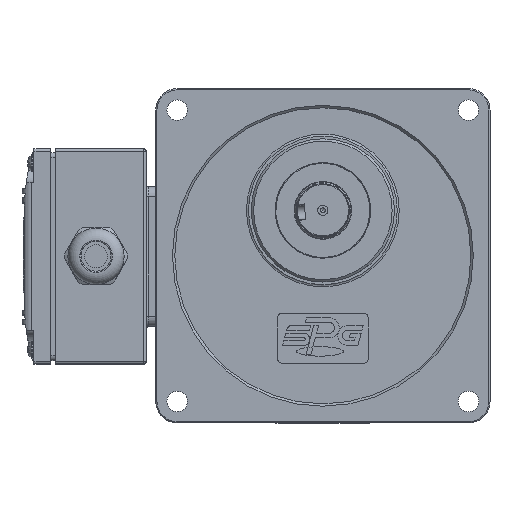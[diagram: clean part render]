
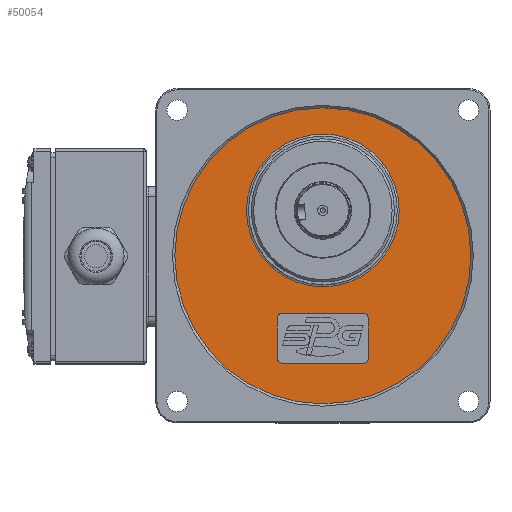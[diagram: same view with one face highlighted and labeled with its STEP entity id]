
A CAD part, top view. The second image highlights one B-rep face of the part: STEP entity #50054.
In plain terms, the highlighted planar face has unit normal (0, 0, 1).
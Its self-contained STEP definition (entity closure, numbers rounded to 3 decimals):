
#2741=FACE_BOUND('',#8429,.T.);
#2742=FACE_BOUND('',#8430,.T.);
#3224=PLANE('',#53541);
#5325=FACE_OUTER_BOUND('',#8428,.T.);
#8428=EDGE_LOOP('',(#33725));
#8429=EDGE_LOOP('',(#33726,#33727,#33728,#33729,#33730,#33731,#33732,#33733));
#8430=EDGE_LOOP('',(#33734));
#11701=CIRCLE('',#53528,2.);
#11702=CIRCLE('',#53531,2.);
#11703=CIRCLE('',#53534,2.);
#11704=CIRCLE('',#53537,2.);
#11705=CIRCLE('',#53539,62.);
#11707=CIRCLE('',#53542,32.);
#14820=LINE('',#77751,#17508);
#14824=LINE('',#77761,#17512);
#14827=LINE('',#77769,#17515);
#14829=LINE('',#77775,#17517);
#17508=VECTOR('',#60286,34.);
#17512=VECTOR('',#60296,17.);
#17515=VECTOR('',#60305,34.);
#17517=VECTOR('',#60313,17.);
#20364=VERTEX_POINT('',#77747);
#20365=VERTEX_POINT('',#77749);
#20366=VERTEX_POINT('',#77753);
#20367=VERTEX_POINT('',#77757);
#20368=VERTEX_POINT('',#77759);
#20369=VERTEX_POINT('',#77765);
#20370=VERTEX_POINT('',#77767);
#20371=VERTEX_POINT('',#77773);
#20372=VERTEX_POINT('',#77779);
#20374=VERTEX_POINT('',#77785);
#25330=EDGE_CURVE('',#20364,#20365,#14820,.T.);
#25332=EDGE_CURVE('',#20366,#20365,#11701,.T.);
#25335=EDGE_CURVE('',#20367,#20368,#14824,.T.);
#25336=EDGE_CURVE('',#20364,#20368,#11702,.T.);
#25339=EDGE_CURVE('',#20369,#20370,#14827,.T.);
#25340=EDGE_CURVE('',#20367,#20370,#11703,.T.);
#25342=EDGE_CURVE('',#20366,#20371,#14829,.T.);
#25343=EDGE_CURVE('',#20369,#20371,#11704,.T.);
#25344=EDGE_CURVE('',#20372,#20372,#11705,.T.);
#25347=EDGE_CURVE('',#20374,#20374,#11707,.T.);
#33725=ORIENTED_EDGE('',*,*,#25344,.T.);
#33726=ORIENTED_EDGE('',*,*,#25335,.T.);
#33727=ORIENTED_EDGE('',*,*,#25336,.F.);
#33728=ORIENTED_EDGE('',*,*,#25330,.T.);
#33729=ORIENTED_EDGE('',*,*,#25332,.F.);
#33730=ORIENTED_EDGE('',*,*,#25342,.T.);
#33731=ORIENTED_EDGE('',*,*,#25343,.F.);
#33732=ORIENTED_EDGE('',*,*,#25339,.T.);
#33733=ORIENTED_EDGE('',*,*,#25340,.F.);
#33734=ORIENTED_EDGE('',*,*,#25347,.F.);
#50054=ADVANCED_FACE('',(#5325,#2741,#2742),#3224,.F.);
#53528=AXIS2_PLACEMENT_3D('',#77755,#60290,#60291);
#53531=AXIS2_PLACEMENT_3D('',#77763,#60299,#60300);
#53534=AXIS2_PLACEMENT_3D('',#77771,#60308,#60309);
#53537=AXIS2_PLACEMENT_3D('',#77777,#60316,#60317);
#53539=AXIS2_PLACEMENT_3D('',#77780,#60320,#60321);
#53541=AXIS2_PLACEMENT_3D('',#77784,#60325,#60326);
#53542=AXIS2_PLACEMENT_3D('',#77786,#60327,#60328);
#60286=DIRECTION('',(1.,0.,0.));
#60290=DIRECTION('center_axis',(0.,0.,1.));
#60291=DIRECTION('ref_axis',(0.707,0.707,0.));
#60296=DIRECTION('',(0.,1.,0.));
#60299=DIRECTION('center_axis',(0.,0.,1.));
#60300=DIRECTION('ref_axis',(-0.707,0.707,0.));
#60305=DIRECTION('',(-1.,0.,0.));
#60308=DIRECTION('center_axis',(0.,0.,1.));
#60309=DIRECTION('ref_axis',(-0.707,-0.707,0.));
#60313=DIRECTION('',(0.,-1.,0.));
#60316=DIRECTION('center_axis',(0.,0.,1.));
#60317=DIRECTION('ref_axis',(0.707,-0.707,0.));
#60320=DIRECTION('center_axis',(0.,0.,1.));
#60321=DIRECTION('ref_axis',(-1.,0.,0.));
#60325=DIRECTION('center_axis',(0.,0.,-1.));
#60326=DIRECTION('ref_axis',(-1.,0.,0.));
#60327=DIRECTION('center_axis',(0.,0.,1.));
#60328=DIRECTION('ref_axis',(-1.,0.,0.));
#77747=CARTESIAN_POINT('',(-14.944,-12.038,24.75));
#77749=CARTESIAN_POINT('',(19.056,-12.038,24.75));
#77751=CARTESIAN_POINT('',(-14.944,-12.038,24.75));
#77753=CARTESIAN_POINT('',(21.056,-14.038,24.75));
#77755=CARTESIAN_POINT('Origin',(19.056,-14.038,24.75));
#77757=CARTESIAN_POINT('',(-16.944,-31.038,24.75));
#77759=CARTESIAN_POINT('',(-16.944,-14.038,24.75));
#77761=CARTESIAN_POINT('',(-16.944,-31.038,24.75));
#77763=CARTESIAN_POINT('Origin',(-14.944,-14.038,24.75));
#77765=CARTESIAN_POINT('',(19.056,-33.038,24.75));
#77767=CARTESIAN_POINT('',(-14.944,-33.038,24.75));
#77769=CARTESIAN_POINT('',(19.056,-33.038,24.75));
#77771=CARTESIAN_POINT('Origin',(-14.944,-31.038,24.75));
#77773=CARTESIAN_POINT('',(21.056,-31.038,24.75));
#77775=CARTESIAN_POINT('',(21.056,-14.038,24.75));
#77777=CARTESIAN_POINT('Origin',(19.056,-31.038,24.75));
#77779=CARTESIAN_POINT('',(64.056,11.962,24.75));
#77780=CARTESIAN_POINT('Origin',(2.056,11.962,24.75));
#77784=CARTESIAN_POINT('Origin',(2.056,11.962,24.75));
#77785=CARTESIAN_POINT('',(-29.944,30.962,24.75));
#77786=CARTESIAN_POINT('Origin',(2.056,30.962,24.75));
